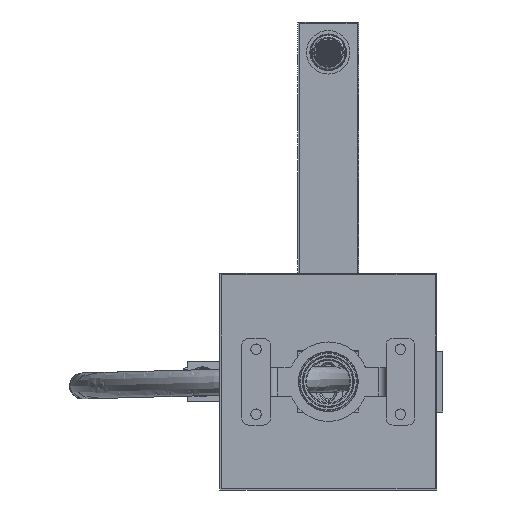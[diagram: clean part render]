
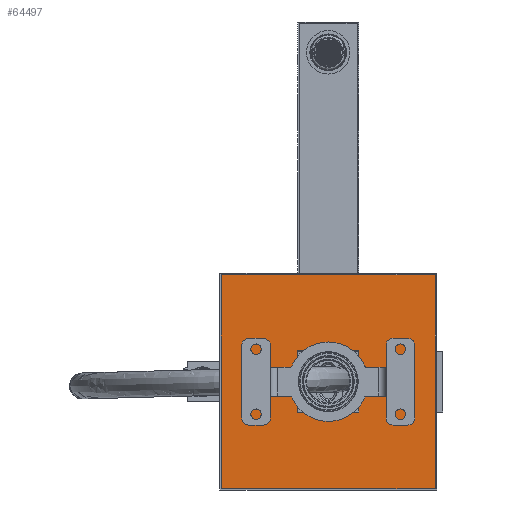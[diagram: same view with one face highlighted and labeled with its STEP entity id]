
A CAD part, front view. The second image highlights one B-rep face of the part: STEP entity #64497.
In plain terms, the highlighted planar face has unit normal (0, -1, 0).
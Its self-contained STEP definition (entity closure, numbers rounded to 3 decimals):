
#463 = VECTOR ( 'NONE', #9304, 1000. ) ;
#2919 = CARTESIAN_POINT ( 'NONE',  ( 74., 49., -75. ) ) ;
#6248 = DIRECTION ( 'NONE',  ( 0., 0., -1. ) ) ;
#9304 = DIRECTION ( 'NONE',  ( 1., 0., 0. ) ) ;
#10670 = VERTEX_POINT ( 'NONE', #73259 ) ;
#11647 = VERTEX_POINT ( 'NONE', #36904 ) ;
#14561 = CARTESIAN_POINT ( 'NONE',  ( 0., 49., -21.25 ) ) ;
#14682 = EDGE_CURVE ( 'NONE', #22833, #50804, #63290, .T. ) ;
#15036 = DIRECTION ( 'NONE',  ( 0., 0., 1. ) ) ;
#17932 = EDGE_LOOP ( 'NONE', ( #67109, #114544, #148574, #144657 ) ) ;
#19650 = LINE ( 'NONE', #14561, #159469 ) ;
#22833 = VERTEX_POINT ( 'NONE', #103849 ) ;
#26291 = DIRECTION ( 'NONE',  ( 0., 0., 1. ) ) ;
#26418 = DIRECTION ( 'NONE',  ( -1., 0., 0. ) ) ;
#26474 = VERTEX_POINT ( 'NONE', #140671 ) ;
#29425 = VECTOR ( 'NONE', #26291, 1000. ) ;
#32254 = DIRECTION ( 'NONE',  ( 1., 0., 0. ) ) ;
#33375 = VECTOR ( 'NONE', #152567, 1000. ) ;
#34244 = EDGE_CURVE ( 'NONE', #50804, #164355, #157785, .T. ) ;
#36904 = CARTESIAN_POINT ( 'NONE',  ( 21.25, 49., -21.25 ) ) ;
#37867 = LINE ( 'NONE', #67028, #29425 ) ;
#38174 = LINE ( 'NONE', #100870, #65735 ) ;
#46309 = EDGE_CURVE ( 'NONE', #164355, #138836, #81354, .T. ) ;
#46768 = ORIENTED_EDGE ( 'NONE', *, *, #104193, .F. ) ;
#50804 = VERTEX_POINT ( 'NONE', #52437 ) ;
#52437 = CARTESIAN_POINT ( 'NONE',  ( 74., 49., 74. ) ) ;
#54700 = AXIS2_PLACEMENT_3D ( 'NONE', #163584, #96039, #15036 ) ;
#55213 = PLANE ( 'NONE',  #54700 ) ;
#58727 = EDGE_LOOP ( 'NONE', ( #46768, #158816, #115851, #82352 ) ) ;
#63290 = LINE ( 'NONE', #166622, #99292 ) ;
#64497 = ADVANCED_FACE ( 'NONE', ( #143500, #171064 ), #55213, .F. ) ;
#65735 = VECTOR ( 'NONE', #6248, 1000. ) ;
#67028 = CARTESIAN_POINT ( 'NONE',  ( -21.25, 49., 0. ) ) ;
#67109 = ORIENTED_EDGE ( 'NONE', *, *, #92899, .T. ) ;
#69443 = LINE ( 'NONE', #71410, #33375 ) ;
#71410 = CARTESIAN_POINT ( 'NONE',  ( -74., 49., -75. ) ) ;
#73259 = CARTESIAN_POINT ( 'NONE',  ( -21.25, 49., 21.25 ) ) ;
#76683 = LINE ( 'NONE', #89168, #463 ) ;
#77119 = VECTOR ( 'NONE', #26418, 1000. ) ;
#81354 = LINE ( 'NONE', #93831, #77119 ) ;
#82352 = ORIENTED_EDGE ( 'NONE', *, *, #14682, .F. ) ;
#88688 = VERTEX_POINT ( 'NONE', #146232 ) ;
#89168 = CARTESIAN_POINT ( 'NONE',  ( 0., 49., 21.25 ) ) ;
#92899 = EDGE_CURVE ( 'NONE', #11647, #88688, #19650, .T. ) ;
#93831 = CARTESIAN_POINT ( 'NONE',  ( -75., 49., -74. ) ) ;
#94471 = EDGE_CURVE ( 'NONE', #10670, #26474, #76683, .T. ) ;
#95594 = DIRECTION ( 'NONE',  ( -1., 0., 0. ) ) ;
#96039 = DIRECTION ( 'NONE',  ( 0., 1., 0. ) ) ;
#99292 = VECTOR ( 'NONE', #32254, 1000. ) ;
#100870 = CARTESIAN_POINT ( 'NONE',  ( 21.25, 49., 0. ) ) ;
#102038 = EDGE_CURVE ( 'NONE', #26474, #11647, #38174, .T. ) ;
#103849 = CARTESIAN_POINT ( 'NONE',  ( -74., 49., 74. ) ) ;
#104193 = EDGE_CURVE ( 'NONE', #138836, #22833, #69443, .T. ) ;
#114544 = ORIENTED_EDGE ( 'NONE', *, *, #141024, .T. ) ;
#115851 = ORIENTED_EDGE ( 'NONE', *, *, #34244, .F. ) ;
#121728 = VECTOR ( 'NONE', #150927, 1000. ) ;
#138836 = VERTEX_POINT ( 'NONE', #142497 ) ;
#140671 = CARTESIAN_POINT ( 'NONE',  ( 21.25, 49., 21.25 ) ) ;
#141024 = EDGE_CURVE ( 'NONE', #88688, #10670, #37867, .T. ) ;
#142497 = CARTESIAN_POINT ( 'NONE',  ( -74., 49., -74. ) ) ;
#143500 = FACE_BOUND ( 'NONE', #17932, .T. ) ;
#144657 = ORIENTED_EDGE ( 'NONE', *, *, #102038, .T. ) ;
#146232 = CARTESIAN_POINT ( 'NONE',  ( -21.25, 49., -21.25 ) ) ;
#148574 = ORIENTED_EDGE ( 'NONE', *, *, #94471, .T. ) ;
#150927 = DIRECTION ( 'NONE',  ( 0., 0., -1. ) ) ;
#152567 = DIRECTION ( 'NONE',  ( 0., 0., 1. ) ) ;
#155079 = CARTESIAN_POINT ( 'NONE',  ( 74., 49., -74. ) ) ;
#157785 = LINE ( 'NONE', #2919, #121728 ) ;
#158816 = ORIENTED_EDGE ( 'NONE', *, *, #46309, .F. ) ;
#159469 = VECTOR ( 'NONE', #95594, 1000. ) ;
#163584 = CARTESIAN_POINT ( 'NONE',  ( 0., 49., 0. ) ) ;
#164355 = VERTEX_POINT ( 'NONE', #155079 ) ;
#166622 = CARTESIAN_POINT ( 'NONE',  ( -75., 49., 74. ) ) ;
#171064 = FACE_OUTER_BOUND ( 'NONE', #58727, .T. ) ;
